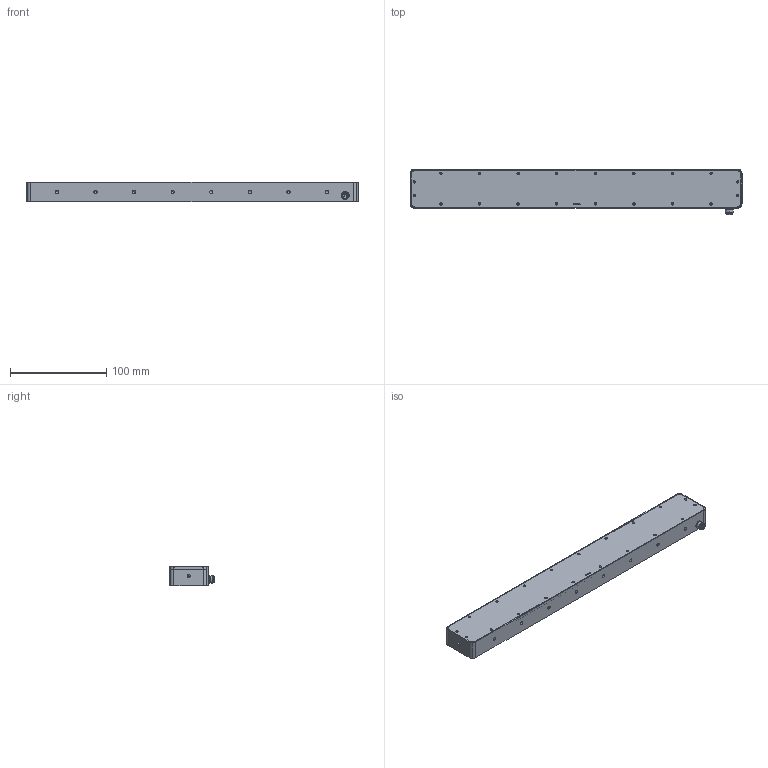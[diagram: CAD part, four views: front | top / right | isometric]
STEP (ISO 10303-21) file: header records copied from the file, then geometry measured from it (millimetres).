
FILE_DESCRIPTION(('STEP AP214'),'1');
FILE_NAME('Power-Line-320_Kundenzeichnung ohne KK.stp','2020-11-06T11:00:48',(' '),(' '),'Spatial InterOp 3D',' ',' ');
FILE_SCHEMA(('AUTOMOTIVE_DESIGN { 1 0 10303 214 1 1 1 1 }'));
Length unit declared in the file: metre
Products named in the file (2): Power-Line-320_Kundenzeichnung ohne KK; Front
Assembly tree (1 placements, depth 2):
  Power-Line-320_Kundenzeichnung ohne KK
    Front
Bounding box: 344.2 x 47.53 x 19.8 mm (x, y, z)
Volume: 210608.9 mm3; surface area: 76620.8 mm2
Topology: 1 solids, 2 shells, 565 faces, 1434 edges, 880 vertices
Faces by surface type: cylinder 265, plane 175, cone 86, extrusion 23, bspline 8, torus 4, sphere 4
Entity records: 17394 total; most frequent: CARTESIAN_POINT 3937, DIRECTION 2876, ORIENTED_EDGE 2700, EDGE_CURVE 1350, AXIS2_PLACEMENT_3D 1090, VERTEX_POINT 880, VECTOR 696, LINE 673
